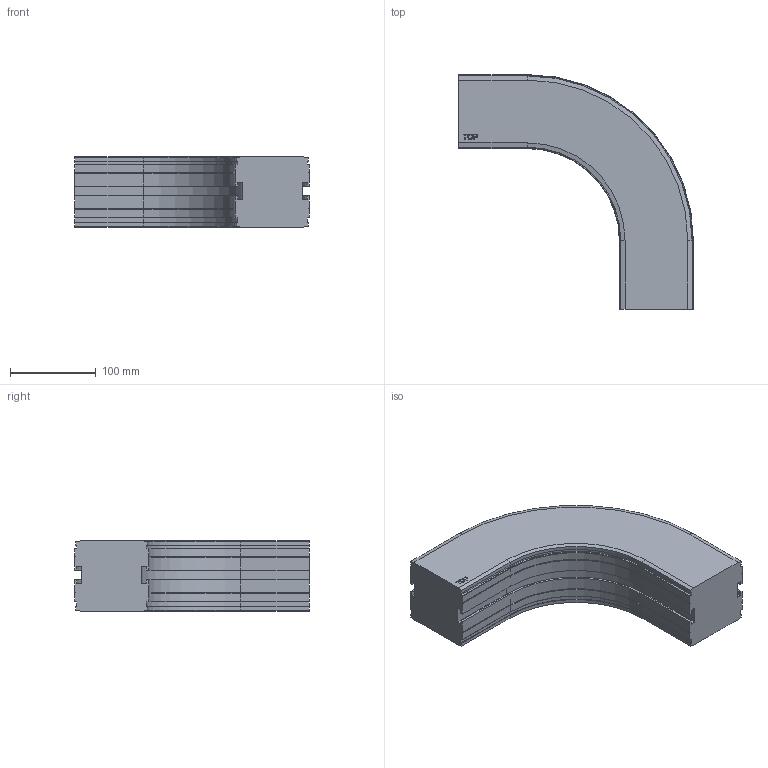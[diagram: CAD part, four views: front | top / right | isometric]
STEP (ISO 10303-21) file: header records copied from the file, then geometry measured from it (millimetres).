
FILE_DESCRIPTION((''),'2;1');
FILE_NAME('C:\Vault Klient\Projekt\Koncept konstruktion\Serie 830 Balk\830-5110.stp','2009-11-27T08:14:30',('Mathias'),(''),'Autodesk Inventor 2010','Autodesk Inventor 2010','');
FILE_SCHEMA(('AUTOMOTIVE_DESIGN { 1 0 10303 214 1 1 1 1 }'));
Length unit declared in the file: millimetre
Products named in the file (1): 830-5110
Bounding box: 273 x 273 x 81.5 mm (x, y, z)
Volume: 2629634.2 mm3; surface area: 174950.3 mm2
Topology: 1 solids, 1 shells, 169 faces, 446 edges, 284 vertices
Faces by surface type: plane 109, cylinder 30, bspline 14, cone 12, torus 4
Entity records: 5295 total; most frequent: CARTESIAN_POINT 1094, ORIENTED_EDGE 892, DIRECTION 802, EDGE_CURVE 446, VECTOR 346, LINE 346, VERTEX_POINT 284, AXIS2_PLACEMENT_3D 228
